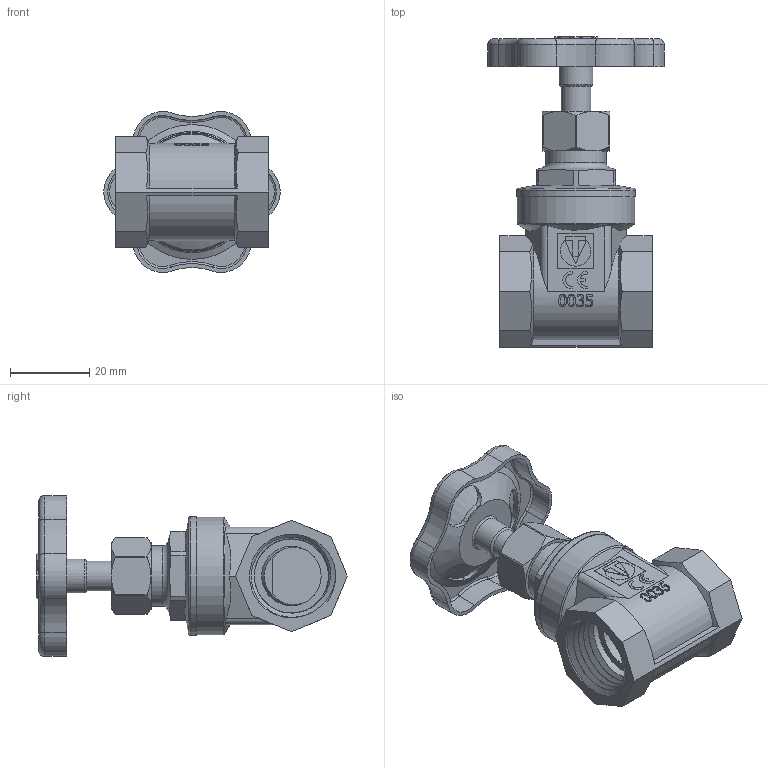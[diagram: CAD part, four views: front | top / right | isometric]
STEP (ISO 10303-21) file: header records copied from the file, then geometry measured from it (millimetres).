
FILE_DESCRIPTION(/* description */ (''),/* implementation_level */ '2;1');
FILE_NAME(/* name */ 'F:\Артём\00000\Работа удаленка\Вентили и задвижки\VT.012.G.04.stp',/* time_stamp */ '2020-11-05T14:01:07+03:00',/* author */ ('almis'),/* organization */ (''),/* preprocessor_version */ 'ST-DEVELOPER v18',/* originating_system */ 'Autodesk Inventor 2020',/* authorisation */ '');
FILE_SCHEMA (('AUTOMOTIVE_DESIGN { 1 0 10303 214 3 1 1 }'));
Length unit declared in the file: millimetre
Products named in the file (1): VT.012_01
Bounding box: 44.5 x 78.27 x 40.55 mm (x, y, z)
Volume: 22125.3 mm3; surface area: 20900.6 mm2
Topology: 4 solids, 5 shells, 553 faces, 1485 edges, 994 vertices
Faces by surface type: plane 204, cylinder 152, bspline 105, cone 61, torus 30, sphere 1
Full cylindrical faces by diameter (mm): 5 x1, 7 x2, 7.5 x2, 7.8 x1, 8 x1, 8.4 x1, 8.5 x1, 9 x1, 10 x3, 10.5 x1, 12.5 x1, 15 x2, 15.2 x1, 18 x1, 18.7 x8, 21 x1, 22.3 x8, 23.75 x1, 29.7 x1, 30 x1
Entity records: 23321 total; most frequent: CARTESIAN_POINT 10213, ORIENTED_EDGE 2970, DIRECTION 2400, EDGE_CURVE 1485, VERTEX_POINT 994, AXIS2_PLACEMENT_3D 894, LINE 612, VECTOR 612
